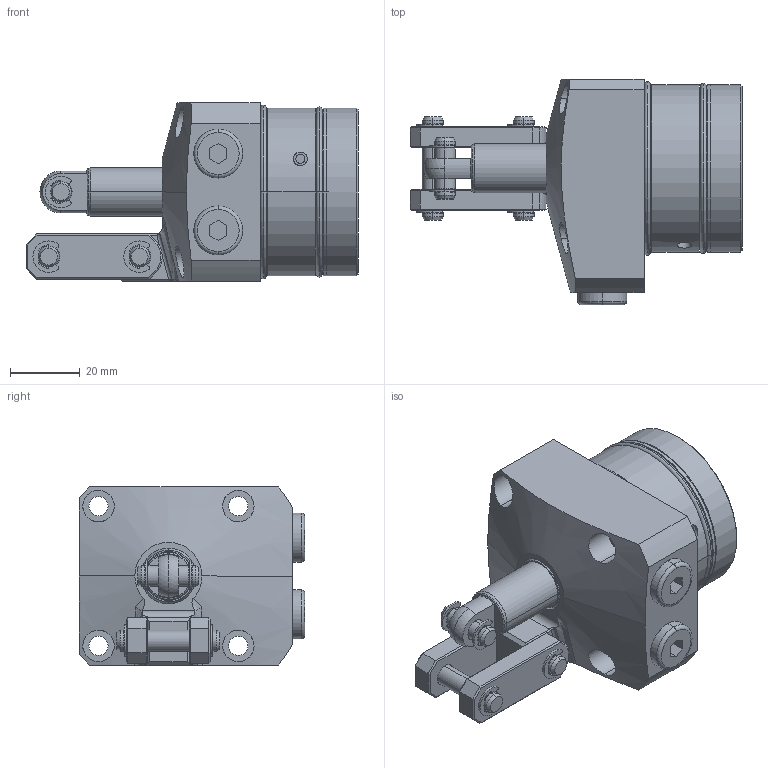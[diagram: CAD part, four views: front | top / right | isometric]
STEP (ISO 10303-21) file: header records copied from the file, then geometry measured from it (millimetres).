
FILE_DESCRIPTION(/* description */ (''),/* implementation_level */ '2;1');
FILE_NAME(/* name */ 'KTPW48-LJ.stp',/* time_stamp */ '2022-11-20T07:54:11+08:00',/* author */ (''),/* organization */ (''),/* preprocessor_version */ 'ST-DEVELOPER v16.7',/* originating_system */ 'SIEMENS PLM Software NX 12.0',/* authorisation */ '');
FILE_SCHEMA (('AP203_CONFIGURATION_CONTROLLED_3D_DESIGN_OF_MECHANICAL_PARTS_AND_ASSEMBLIES_MIM_LF { 1 0 10303 403 2 1 2}'));
Length unit declared in the file: millimetre
Products named in the file (10): KTPW48-LJ-02; KTPW48-LJ-03; KTPW48-LJ-01; KTPW48-LJ-05; KTPW48-LJ-07; KTPW48-LJ-06; KTPW48-LJ-08; KTPW48-LJ-04; KTPW48-LJ-09; LKW0481-CLJ_step
Assembly tree (18 placements, depth 2):
  LKW0481-CLJ_step
    KTPW48-LJ-09  x2
    KTPW48-LJ-04  x2
    KTPW48-LJ-08  x2
    KTPW48-LJ-06  x2
    KTPW48-LJ-07  x6
    KTPW48-LJ-05
    KTPW48-LJ-01
    KTPW48-LJ-03
    KTPW48-LJ-02
Bounding box: 95 x 64.5 x 51 mm (x, y, z)
Volume: 134580.3 mm3; surface area: 34504.8 mm2
Topology: 20 solids, 20 shells, 635 faces, 1475 edges, 913 vertices
Faces by surface type: cylinder 251, plane 190, torus 106, cone 76, bspline 10, sphere 2
Full cylindrical faces by diameter (mm): 48 x1
Entity records: 12197 total; most frequent: CARTESIAN_POINT 2722, DIRECTION 1856, ORIENTED_EDGE 1560, EDGE_CURVE 780, AXIS2_PLACEMENT_3D 779, VERTEX_POINT 474, CIRCLE 415, EDGE_LOOP 404
